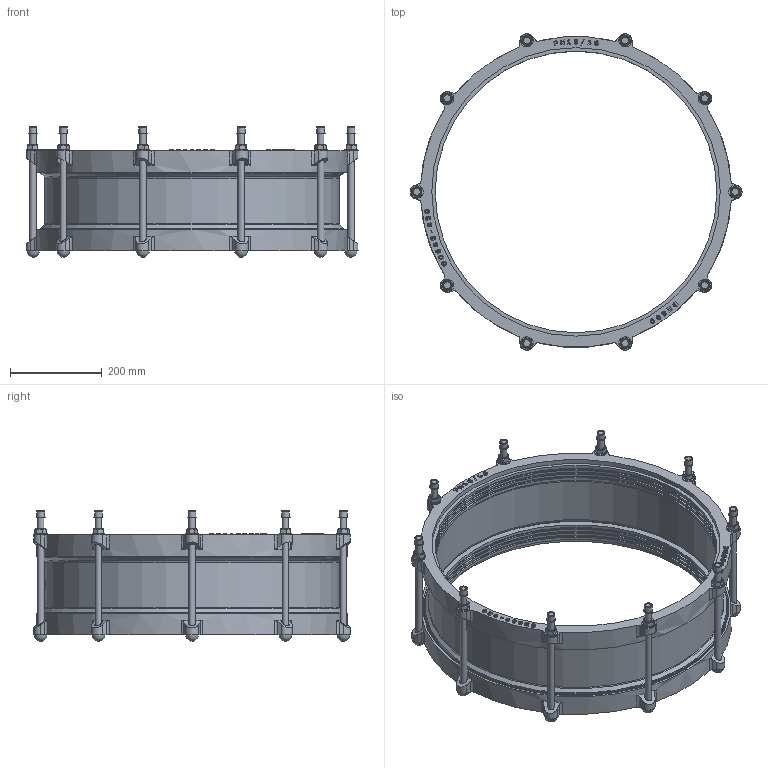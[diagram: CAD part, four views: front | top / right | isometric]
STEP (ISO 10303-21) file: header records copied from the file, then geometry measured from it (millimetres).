
FILE_DESCRIPTION(('STEP AP203'), '1');
FILE_NAME('Cîåäèíèòåëüíàÿ ìóôòà äëÿ æåñòêèõ òðóá', '', ('UNSPECIFIED'), ('UNSPECIFIED'), 'C3D Converter', 'C3D Toolkit', '');
FILE_SCHEMA(('CONFIG_CONTROL_DESIGN'));
Length unit declared in the file: millimetre
Assembly tree (45 placements, depth 2):
  (unnamed)
    (unnamed)
    (unnamed)  x10
    (unnamed)  x10
    (unnamed)  x10
    (unnamed)  x10
    (unnamed)
    (unnamed)
    (unnamed)  x2
Bounding box: 725 x 690.98 x 285.4 mm (x, y, z)
Volume: 8158009.7 mm3; surface area: 2012439.4 mm2
Topology: 49 solids, 49 shells, 1114 faces, 2827 edges, 1856 vertices
Faces by surface type: extrusion 432, plane 379, cylinder 189, cone 76, torus 28, sphere 10
Full cylindrical faces by diameter (mm): 14 x30, 15 x10, 16 x20, 16.8 x10, 19.6 x10, 25.619 x1, 28 x10, 615 x8, 622.5 x6, 630 x3, 637 x2, 644 x3, 661.5 x2, 665 x4, 679 x2
Entity records: 43070 total; most frequent: CARTESIAN_POINT 18107, ORIENTED_EDGE 4374, DIRECTION 2697, EDGE_CURVE 2187, VERTEX_POINT 1494, B_SPLINE_CURVE_WITH_KNOTS 1452, VECTOR 1321, EDGE_LOOP 993
